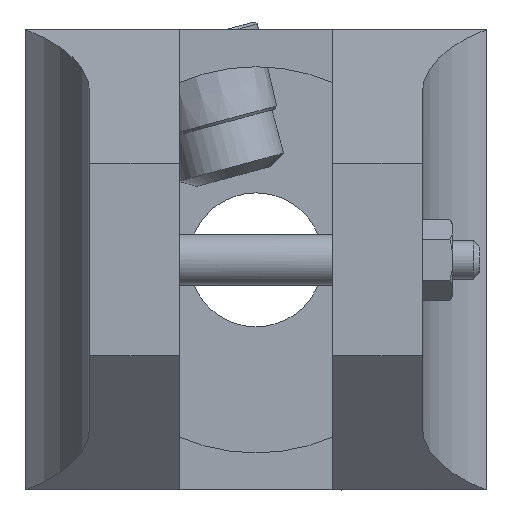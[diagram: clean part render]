
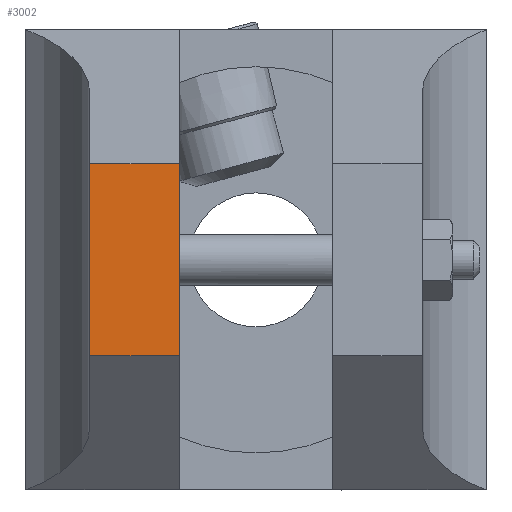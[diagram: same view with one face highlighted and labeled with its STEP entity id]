
A CAD part, left-side view. The second image highlights one B-rep face of the part: STEP entity #3002.
In plain terms, the highlighted planar face has unit normal (1, 0, 0).
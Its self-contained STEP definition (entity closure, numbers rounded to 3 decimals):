
#166 = CARTESIAN_POINT ( 'NONE',  ( -98.374, -4.1, 7.5 ) ) ;
#233 = EDGE_LOOP ( 'NONE', ( #11699, #12894, #14147, #15478 ) ) ;
#354 = CARTESIAN_POINT ( 'NONE',  ( -98.374, -4.1, 7.5 ) ) ;
#382 = CARTESIAN_POINT ( 'NONE',  ( -98.374, -4.1, 2.5 ) ) ;
#436 = CARTESIAN_POINT ( 'NONE',  ( -98.374, -4.1, -7.5 ) ) ;
#476 = CARTESIAN_POINT ( 'NONE',  ( -98.374, -4.1, -2.5 ) ) ;
#1529 = CARTESIAN_POINT ( 'NONE',  ( -98.374, 0.566, 7.5 ) ) ;
#1756 = B_SPLINE_CURVE_WITH_KNOTS ( 'NONE', 1,
 ( #12207, #12332 ),
 .UNSPECIFIED., .F., .F.,
 ( 2, 2 ),
 ( 0., 1. ),
 .UNSPECIFIED. ) ;
#2667 = B_SPLINE_CURVE_WITH_KNOTS ( 'NONE', 3,
 ( #14322, #6686, #1529, #10520 ),
 .UNSPECIFIED., .F., .F.,
 ( 4, 4 ),
 ( 0., 1. ),
 .UNSPECIFIED. ) ;
#3002 = ADVANCED_FACE ( 'NONE', ( #13548 ), #7298, .F. ) ;
#3444 = AXIS2_PLACEMENT_3D ( 'NONE', #12480, #7317, #7215 ) ;
#3598 = CARTESIAN_POINT ( 'NONE',  ( -98.374, -4.1, -7.5 ) ) ;
#3938 = EDGE_CURVE ( 'NONE', #13745, #16566, #1756, .T. ) ;
#4158 = B_SPLINE_CURVE_WITH_KNOTS ( 'NONE', 3,
 ( #9960, #9718, #9573, #9518 ),
 .UNSPECIFIED., .F., .F.,
 ( 4, 4 ),
 ( 0., 1. ),
 .UNSPECIFIED. ) ;
#4596 = EDGE_CURVE ( 'NONE', #8751, #16566, #4158, .T. ) ;
#6686 = CARTESIAN_POINT ( 'NONE',  ( -98.374, -1.767, 7.5 ) ) ;
#6934 = VERTEX_POINT ( 'NONE', #166 ) ;
#7215 = DIRECTION ( 'NONE',  ( 0., -1., 0. ) ) ;
#7298 = PLANE ( 'NONE',  #3444 ) ;
#7317 = DIRECTION ( 'NONE',  ( -1., 0., 0. ) ) ;
#8751 = VERTEX_POINT ( 'NONE', #3598 ) ;
#9518 = CARTESIAN_POINT ( 'NONE',  ( -98.374, 2.9, -7.5 ) ) ;
#9573 = CARTESIAN_POINT ( 'NONE',  ( -98.374, 0.566, -7.5 ) ) ;
#9718 = CARTESIAN_POINT ( 'NONE',  ( -98.374, -1.767, -7.5 ) ) ;
#9922 = B_SPLINE_CURVE_WITH_KNOTS ( 'NONE', 3,
 ( #436, #476, #382, #354 ),
 .UNSPECIFIED., .F., .F.,
 ( 4, 4 ),
 ( 0., 1. ),
 .UNSPECIFIED. ) ;
#9960 = CARTESIAN_POINT ( 'NONE',  ( -98.374, -4.1, -7.5 ) ) ;
#10143 = CARTESIAN_POINT ( 'NONE',  ( -98.374, 2.9, 7.5 ) ) ;
#10520 = CARTESIAN_POINT ( 'NONE',  ( -98.374, 2.9, 7.5 ) ) ;
#10607 = CARTESIAN_POINT ( 'NONE',  ( -98.374, 2.9, -7.5 ) ) ;
#11216 = EDGE_CURVE ( 'NONE', #8751, #6934, #9922, .T. ) ;
#11699 = ORIENTED_EDGE ( 'NONE', *, *, #4596, .T. ) ;
#12207 = CARTESIAN_POINT ( 'NONE',  ( -98.374, 2.9, 7.5 ) ) ;
#12332 = CARTESIAN_POINT ( 'NONE',  ( -98.374, 2.9, -7.5 ) ) ;
#12480 = CARTESIAN_POINT ( 'NONE',  ( -98.374, 2.9, -7.5 ) ) ;
#12894 = ORIENTED_EDGE ( 'NONE', *, *, #3938, .F. ) ;
#13548 = FACE_OUTER_BOUND ( 'NONE', #233, .T. ) ;
#13745 = VERTEX_POINT ( 'NONE', #10143 ) ;
#14147 = ORIENTED_EDGE ( 'NONE', *, *, #15618, .F. ) ;
#14322 = CARTESIAN_POINT ( 'NONE',  ( -98.374, -4.1, 7.5 ) ) ;
#15478 = ORIENTED_EDGE ( 'NONE', *, *, #11216, .F. ) ;
#15618 = EDGE_CURVE ( 'NONE', #6934, #13745, #2667, .T. ) ;
#16566 = VERTEX_POINT ( 'NONE', #10607 ) ;
